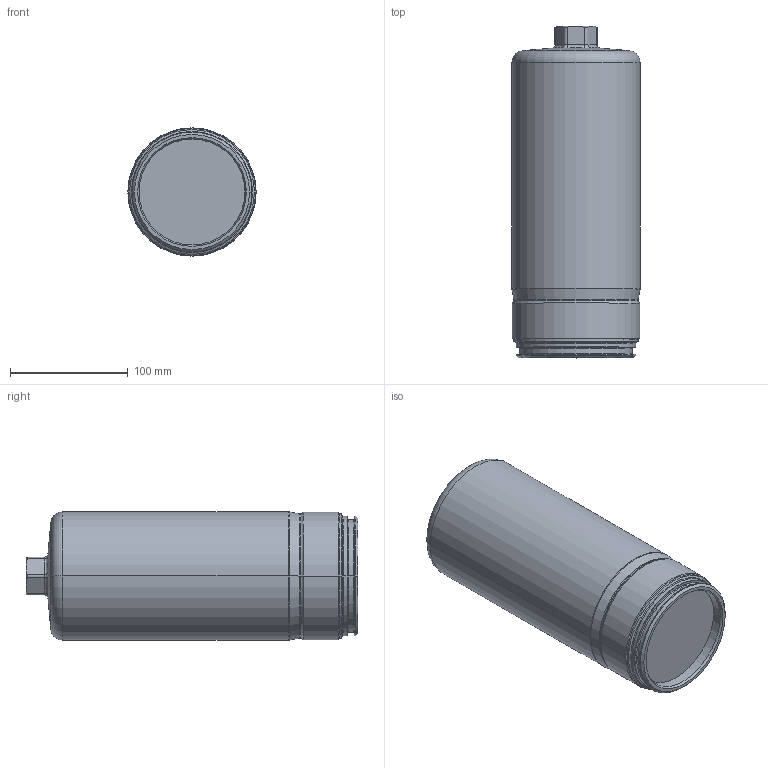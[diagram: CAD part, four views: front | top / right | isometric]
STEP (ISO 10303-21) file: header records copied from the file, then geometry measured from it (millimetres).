
FILE_DESCRIPTION((''),'2;1');
FILE_NAME('13200100_217438','2019-07-04T',('c.kretz'),(''),'PRO/ENGINEER BY PARAMETRIC TECHNOLOGY CORPORATION, 2015110','PRO/ENGINEER BY PARAMETRIC TECHNOLOGY CORPORATION, 2015110','');
FILE_SCHEMA(('AUTOMOTIVE_DESIGN { 1 0 10303 214 1 1 1 1 }'));
Length unit declared in the file: millimetre
Products named in the file (1): 13200100_217438
Bounding box: 109 x 282 x 109 mm (x, y, z)
Volume: 2355138.8 mm3; surface area: 111448.6 mm2
Topology: 1 solids, 1 shells, 85 faces, 182 edges, 103 vertices
Faces by surface type: cylinder 22, torus 22, cone 16, bspline 13, plane 12
Entity records: 3801 total; most frequent: CARTESIAN_POINT 937, ORIENTED_EDGE 364, DIRECTION 356, PRESENTATION_STYLE_ASSIGNMENT 183, STYLED_ITEM 183, CURVE_STYLE 182, EDGE_CURVE 182, AXIS2_PLACEMENT_3D 156
